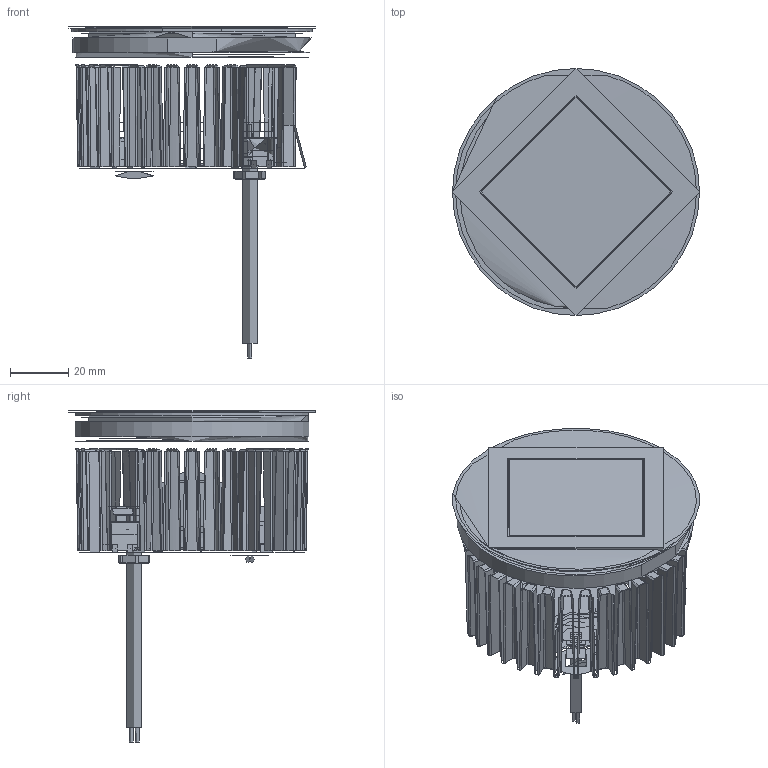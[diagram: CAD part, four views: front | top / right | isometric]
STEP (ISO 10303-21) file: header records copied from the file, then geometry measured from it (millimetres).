
FILE_DESCRIPTION(/* description */ ('Unknown'),/* implementation_level */ '2;1');
FILE_NAME(/* name */ 'ORMA 8W RASO_Semplifica',/* time_stamp */ '2023-01-13T13:38:46+01:00',/* author */ ('Unknown'),/* organization */ ('Unknown'),/* preprocessor_version */ 'ST-DEVELOPER v18.1',/* originating_system */ 'Solid Edge',/* authorisation */ 'Unknown');
FILE_SCHEMA (('AUTOMOTIVE_DESIGN {1 0 10303 214 3 1 1}'));
Length unit declared in the file: millimetre
Products named in the file (1): ORMA 8W RASO_Semplifica
Bounding box: 84.6 x 84.6 x 113.69 mm (x, y, z)
Volume: 119138.2 mm3; surface area: 91572.3 mm2
Topology: 3 solids, 3 shells, 1072 faces, 2386 edges, 1434 vertices
Faces by surface type: bspline 252, plane 250, cylinder 210, torus 170, sphere 99, cone 91
Full cylindrical faces by diameter (mm): 0.01 x2, 1 x68, 1.2 x6, 1.4 x4, 2 x2, 2.7 x2, 5.188 x1, 5.2 x1, 5.4 x2, 5.6 x1, 8.5 x1, 8.917 x4, 10 x1, 10.6 x1, 11 x6, 13 x1, 13.5 x1, 16.101 x4, 17 x2, 19 x2, 20 x2, 24 x1, 30 x2, 56 x1, 65.5 x1, 69.5 x1, 71 x1, 75.835 x1, 79.5 x1, 84.6 x1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
Entity records: 41718 total; most frequent: CARTESIAN_POINT 12523, ORIENTED_EDGE 4742, DIRECTION 4394, EDGE_CURVE 2371, AXIS2_PLACEMENT_3D 1934, VERTEX_POINT 1432, EDGE_LOOP 1221, FACE_BOUND 1221
